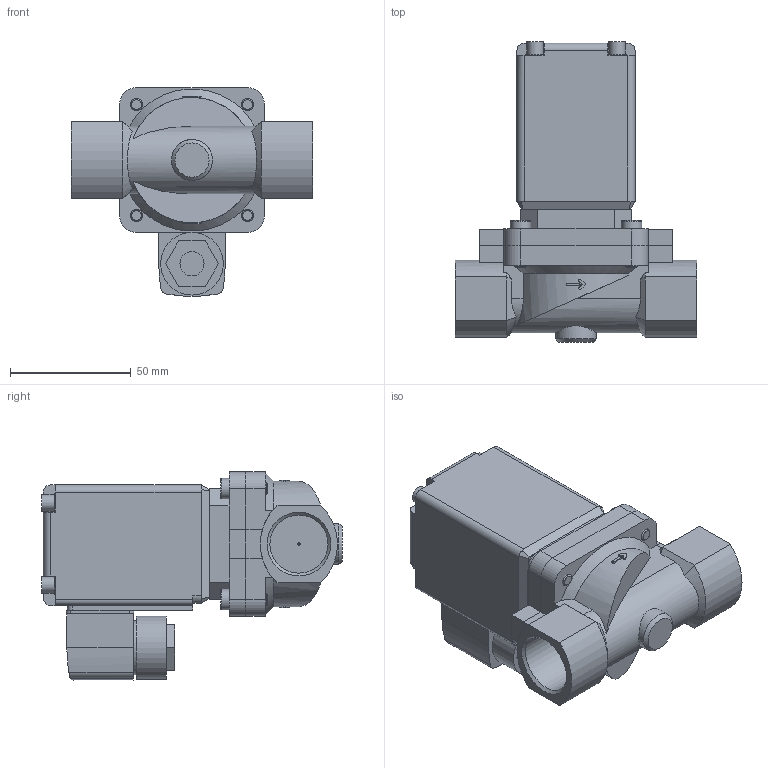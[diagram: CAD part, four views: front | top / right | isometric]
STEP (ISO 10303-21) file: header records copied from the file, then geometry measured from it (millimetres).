
FILE_DESCRIPTION( ( 'STEP AP214' ), '1' );
FILE_NAME( 'p:/temp/worker_7/temp/app_58_02018110105290986237023192d056f_000000_00_00_000000/format_0/0290-065033-Servo-assisted__2_2_way_diaphragm_valve.stp', '2018-11-01T04:29:10', ( '' ), ( '' ), ' ', 'PARTsolutions', ' ' );
FILE_SCHEMA( ( 'AUTOMOTIVE_DESIGN { 1 0 10303 214 1 1 1 1 }' ) );
Length unit declared in the file: millimetre
Products named in the file (3): 0290-065033-Servo-assisted  2/2 way diaphragm valve; HI_0290d-20MS2/2-way Solenoid Valve_cover; HI_5282g-8520MS -2/2-Wege-Magnetventil_Gehaeuse
Assembly tree (2 placements, depth 2):
  0290-065033-Servo-assisted  2/2 way diaphragm valve
    HI_0290d-20MS2/2-way Solenoid Valve_cover
    HI_5282g-8520MS -2/2-Wege-Magnetventil_Gehaeuse
Bounding box: 100 x 124.7 x 86.5 mm (x, y, z)
Volume: 343951.9 mm3; surface area: 52745.1 mm2
Topology: 2 solids, 2 shells, 252 faces, 648 edges, 422 vertices
Faces by surface type: plane 152, cylinder 77, cone 19, torus 4
Full cylindrical faces by diameter (mm): 1 x1, 5 x4, 7 x4, 8.5 x4, 10 x1, 17 x1, 22.5 x1, 24.117 x2, 26 x1
Entity records: 9818 total; most frequent: CARTESIAN_POINT 1702, DIRECTION 1262, ORIENTED_EDGE 1220, EDGE_CURVE 610, AXIS2_PLACEMENT_3D 448, VERTEX_POINT 414, LINE 366, VECTOR 366
